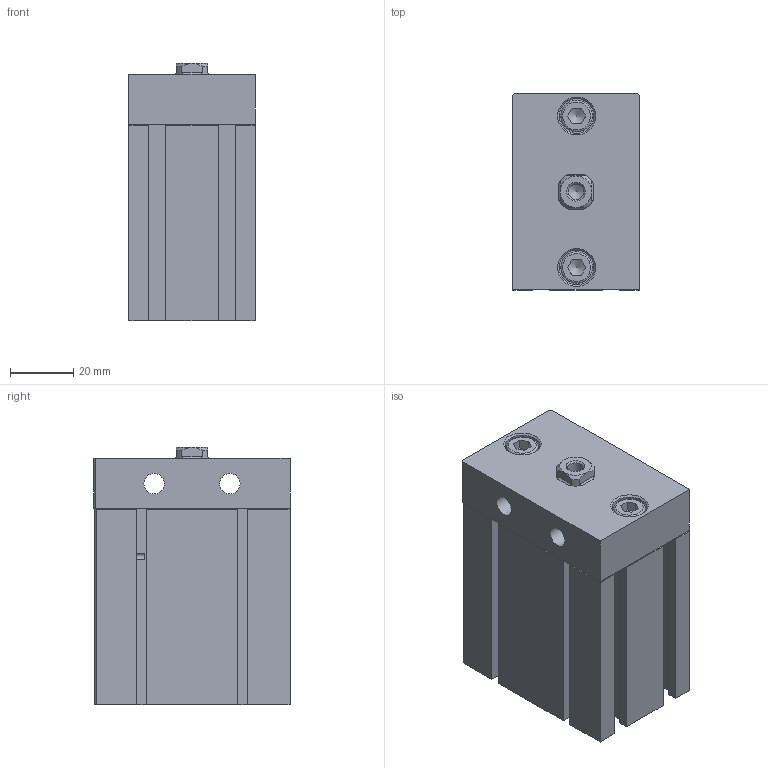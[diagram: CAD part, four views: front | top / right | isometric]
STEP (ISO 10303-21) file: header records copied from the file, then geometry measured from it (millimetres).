
FILE_DESCRIPTION((''),'2;1');
FILE_NAME('I:\3D電子目錄\氣缸\ND\ND\ND32\ND32x30.stp','2007-07-24T19:54:23',('Administrator'),(''),'Autodesk Inventor 11','Autodesk Inventor 11','');
FILE_SCHEMA(('AUTOMOTIVE_DESIGN { 1 0 10303 214 1 1 1 1 }'));
Length unit declared in the file: millimetre
Products named in the file (4): ND32; R 形環 34; ISO 4762 M6 x 16
Assembly tree (4 placements, depth 2):
  ND32
    ND32
    R 形環 34
    ISO 4762 M6 x 16  x2
Bounding box: 40 x 62.1 x 81.5 mm (x, y, z)
Volume: 169051.6 mm3; surface area: 36176.8 mm2
Topology: 5 solids, 5 shells, 195 faces, 479 edges, 305 vertices
Faces by surface type: plane 133, cylinder 25, cone 18, bspline 16, torus 3
Full cylindrical faces by diameter (mm): 1.9 x2, 2.2 x2, 6 x2, 6.5 x2, 10 x2, 11 x2, 23 x1, 34 x1, 36 x1
Entity records: 5301 total; most frequent: CARTESIAN_POINT 1111, DIRECTION 824, ORIENTED_EDGE 802, EDGE_CURVE 401, VECTOR 296, LINE 296, VERTEX_POINT 277, AXIS2_PLACEMENT_3D 264
